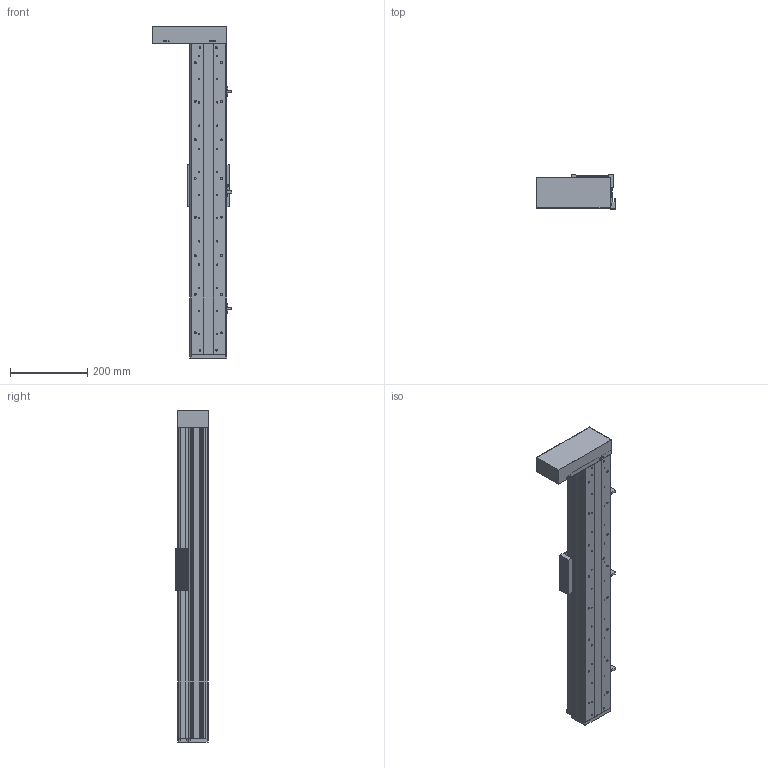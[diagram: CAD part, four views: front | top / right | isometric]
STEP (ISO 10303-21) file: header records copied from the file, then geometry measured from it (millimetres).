
FILE_DESCRIPTION (( 'STEP AP214' ), '1' );
FILE_NAME ('CF95B-C-600-FWL.STEP', '2020-01-15T08:46:52', ( '微软用户' ), ( '微软中国' ), 'SwSTEP 2.0', 'SolidWorks 2016', '' );
FILE_SCHEMA (( 'AUTOMOTIVE_DESIGN' ));
Length unit declared in the file: millimetre
Products named in the file (20): 酘殏萇儂啣; CF95B耜啣; hexagon socket head cap screws gb_GB_FASTENER_SCREWS_HSHCS M5X25-N; curved single coil spring lock washers gb_GB_FASTENER_WASHER_CSLW 5; hexagon socket head cap screws gb_GB_FASTENER_SCREWS_HSHCS M4X10-N; hexagon socket head cap screws gb_GB_FASTENER_SCREWS_HSHCS M4X25-N; plain washers--product grade c gb_GB_FASTENER_WASHER_SMWC 4; curved single coil spring lock washers gb_GB_FASTENER_WASHER_CSLW 4; 盓傅釱; CF95B嘐隅釱; CF95B裔啣-600; CF95B賑雄啣; CF95B蹟譫釱; EGH-15-CABZnew; EGR15-600; CF95B菁釱-600; 嫖萇羲壽; CF95B-C-600-FWL; 75-86-95癹弇羲壽覜茼え; 滅誘欶 殏俔
Assembly tree (51 placements, depth 2):
  CF95B-C-600-FWL
    CF95B菁釱-600
    EGR15-600  x2
    EGH-15-CABZnew  x2
    CF95B蹟譫釱
    CF95B賑雄啣
    CF95B裔啣-600
    CF95B嘐隅釱
    盓傅釱
    curved single coil spring lock washers gb_GB_FASTENER_WASHER_CSLW 4  x8
    plain washers--product grade c gb_GB_FASTENER_WASHER_SMWC 4  x4
    hexagon socket head cap screws gb_GB_FASTENER_SCREWS_HSHCS M4X25-N  x4
    hexagon socket head cap screws gb_GB_FASTENER_SCREWS_HSHCS M4X10-N  x4
    curved single coil spring lock washers gb_GB_FASTENER_WASHER_CSLW 5  x7
    hexagon socket head cap screws gb_GB_FASTENER_SCREWS_HSHCS M5X25-N  x7
    CF95B耜啣
    酘殏萇儂啣
    滅誘欶 殏俔
    75-86-95癹弇羲壽覜茼え
    嫖萇羲壽  x3
Bounding box: 206.6 x 88.05 x 860 mm (x, y, z)
Volume: 2602368.9 mm3; surface area: 1023240.6 mm2
Topology: 49 solids, 75 shells, 4653 faces, 16336 edges, 11089 vertices
Faces by surface type: plane 2245, bspline 1174, cylinder 914, cone 178, torus 94, sphere 48
Entity records: 131559 total; most frequent: CARTESIAN_POINT 41933, ORIENTED_EDGE 15238, DIRECTION 12170, EDGE_CURVE 8743, VERTEX_POINT 5968, LINE 5084, VECTOR 5084, AXIS2_PLACEMENT_3D 3543
